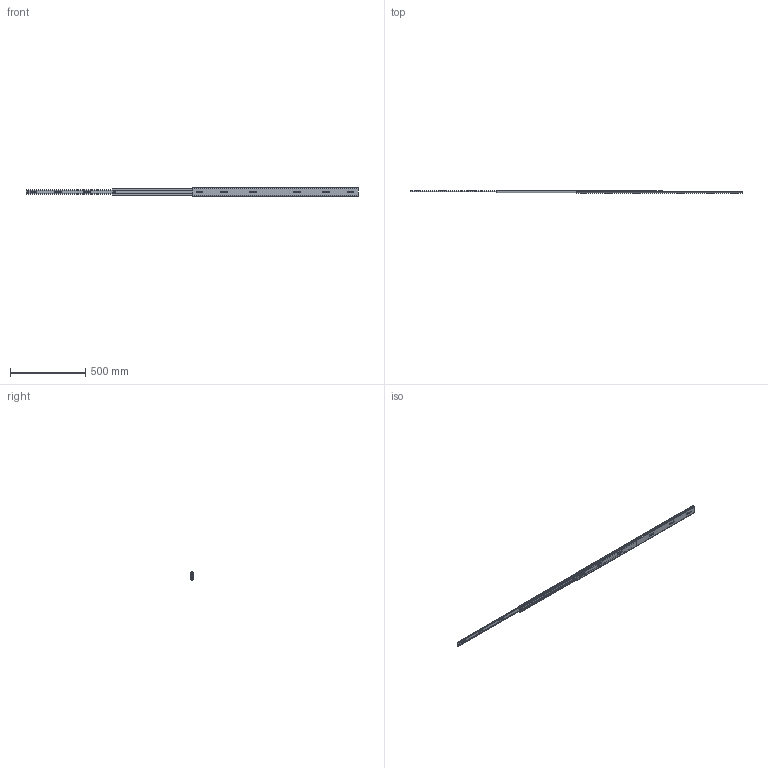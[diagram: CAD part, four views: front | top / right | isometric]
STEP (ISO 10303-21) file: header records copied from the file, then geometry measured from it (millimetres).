
FILE_DESCRIPTION((''),'2;1');
FILE_NAME('KP-57-C-44_ASM','2019-04-23T',('jishu015'),(''),'PRO/ENGINEER BY PARAMETRIC TECHNOLOGY CORPORATION, 2010280','PRO/ENGINEER BY PARAMETRIC TECHNOLOGY CORPORATION, 2010280','');
FILE_SCHEMA(('CONFIG_CONTROL_DESIGN'));
Products named in the file (15): KP-57-01WEIKE-36____; WAIKE___________________ASM; KP-57-01ZHONGGUI-40_______; KP-57-01ZHONGGUI-40________ASM; 1057XIAOZHUJIA1__; 1057-5-6GANZHU1__; 1057ZHUJIADANWEIJIAO1__; 1057XIAOZHUJIA-28GE________ASM; KP-57-01NEIGUI-40_____; KP-57-01NEIGUI-40______ASM; 1057DAZHUJIA-14GE_____; 1057ZHUJIADANWEIJIAO_____; 1057-5-6GANZHU_____; 1057DAZHUJIA-14GE11___ASM; KP-57-C-44_ASM
Assembly tree (182 placements, depth 3):
  KP-57-C-44_ASM
    WAIKE___________________ASM
      KP-57-01WEIKE-36____
    KP-57-01ZHONGGUI-40________ASM
      KP-57-01ZHONGGUI-40_______
    1057XIAOZHUJIA-28GE________ASM
      1057XIAOZHUJIA1__
      1057-5-6GANZHU1__  x80
      1057ZHUJIADANWEIJIAO1__  x2
    KP-57-01NEIGUI-40______ASM
      KP-57-01NEIGUI-40_____
    1057DAZHUJIA-14GE11___ASM
      1057DAZHUJIA-14GE_____
      1057ZHUJIADANWEIJIAO_____  x2
      1057-5-6GANZHU_____  x88
Bounding box: 2200 x 19 x 57.67 mm (x, y, z)
Volume: 487867.4 mm3; surface area: 578975.5 mm2
Topology: 177 solids, 177 shells, 4236 faces, 11938 edges, 7380 vertices
Faces by surface type: plane 1990, cylinder 1738, sphere 336, cone 96, bspline 76
Entity records: 129538 total; most frequent: CARTESIAN_POINT 25771, DIRECTION 22076, ORIENTED_EDGE 21532, EDGE_CURVE 10766, AXIS2_PLACEMENT_3D 7557, VECTOR 6962, LINE 6962, VERTEX_POINT 6936
